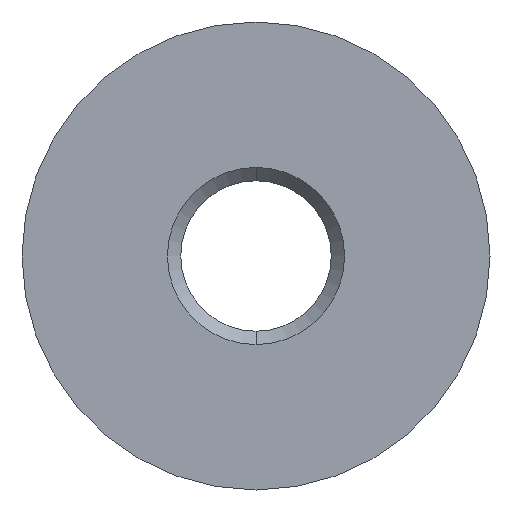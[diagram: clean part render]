
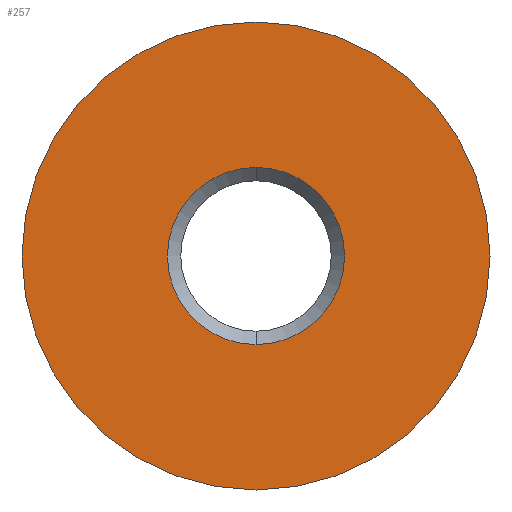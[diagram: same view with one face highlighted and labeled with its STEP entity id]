
A CAD part, front view. The second image highlights one B-rep face of the part: STEP entity #257.
In plain terms, the highlighted planar face has unit normal (0, -1, 0).
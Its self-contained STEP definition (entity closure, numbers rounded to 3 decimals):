
#1 = DIRECTION ( 'NONE',  ( 0., -1., 0. ) ) ;
#12 = VERTEX_POINT ( 'NONE', #251 ) ;
#26 = ORIENTED_EDGE ( 'NONE', *, *, #260, .T. ) ;
#28 = DIRECTION ( 'NONE',  ( 0., 0., -1. ) ) ;
#35 = ORIENTED_EDGE ( 'NONE', *, *, #100, .F. ) ;
#44 = VERTEX_POINT ( 'NONE', #295 ) ;
#50 = CARTESIAN_POINT ( 'NONE',  ( 0., -5., 2.65 ) ) ;
#76 = CARTESIAN_POINT ( 'NONE',  ( 0., -5., 0. ) ) ;
#82 = CARTESIAN_POINT ( 'NONE',  ( 0., -5., 0. ) ) ;
#87 = EDGE_CURVE ( 'NONE', #12, #196, #269, .T. ) ;
#89 = DIRECTION ( 'NONE',  ( 0., -1., 0. ) ) ;
#100 = EDGE_CURVE ( 'NONE', #196, #12, #164, .T. ) ;
#105 = AXIS2_PLACEMENT_3D ( 'NONE', #82, #185, #28 ) ;
#109 = FACE_OUTER_BOUND ( 'NONE', #369, .T. ) ;
#113 = CIRCLE ( 'NONE', #253, 7. ) ;
#151 = CARTESIAN_POINT ( 'NONE',  ( 0., -5., -7. ) ) ;
#152 = DIRECTION ( 'NONE',  ( 0., 0., -1. ) ) ;
#164 = CIRCLE ( 'NONE', #319, 2.65 ) ;
#176 = VERTEX_POINT ( 'NONE', #151 ) ;
#180 = CARTESIAN_POINT ( 'NONE',  ( 0., -5., 0. ) ) ;
#185 = DIRECTION ( 'NONE',  ( 0., -1., 0. ) ) ;
#196 = VERTEX_POINT ( 'NONE', #50 ) ;
#207 = CARTESIAN_POINT ( 'NONE',  ( -2.65, -5., 0. ) ) ;
#218 = EDGE_CURVE ( 'NONE', #44, #176, #383, .T. ) ;
#221 = DIRECTION ( 'NONE',  ( 0., 0., -1. ) ) ;
#241 = AXIS2_PLACEMENT_3D ( 'NONE', #207, #329, #259 ) ;
#251 = CARTESIAN_POINT ( 'NONE',  ( 0., -5., -2.65 ) ) ;
#253 = AXIS2_PLACEMENT_3D ( 'NONE', #336, #330, #221 ) ;
#257 = ADVANCED_FACE ( 'NONE', ( #340, #109 ), #271, .F. ) ;
#259 = DIRECTION ( 'NONE',  ( 0., 0., 1. ) ) ;
#260 = EDGE_CURVE ( 'NONE', #176, #44, #113, .T. ) ;
#265 = EDGE_LOOP ( 'NONE', ( #374, #35 ) ) ;
#269 = CIRCLE ( 'NONE', #105, 2.65 ) ;
#271 = PLANE ( 'NONE',  #241 ) ;
#295 = CARTESIAN_POINT ( 'NONE',  ( 0., -5., 7. ) ) ;
#314 = AXIS2_PLACEMENT_3D ( 'NONE', #76, #89, #354 ) ;
#319 = AXIS2_PLACEMENT_3D ( 'NONE', #180, #1, #152 ) ;
#329 = DIRECTION ( 'NONE',  ( 0., 1., 0. ) ) ;
#330 = DIRECTION ( 'NONE',  ( 0., -1., 0. ) ) ;
#336 = CARTESIAN_POINT ( 'NONE',  ( 0., -5., 0. ) ) ;
#340 = FACE_BOUND ( 'NONE', #265, .T. ) ;
#354 = DIRECTION ( 'NONE',  ( 0., 0., -1. ) ) ;
#369 = EDGE_LOOP ( 'NONE', ( #26, #376 ) ) ;
#374 = ORIENTED_EDGE ( 'NONE', *, *, #87, .F. ) ;
#376 = ORIENTED_EDGE ( 'NONE', *, *, #218, .T. ) ;
#383 = CIRCLE ( 'NONE', #314, 7. ) ;
